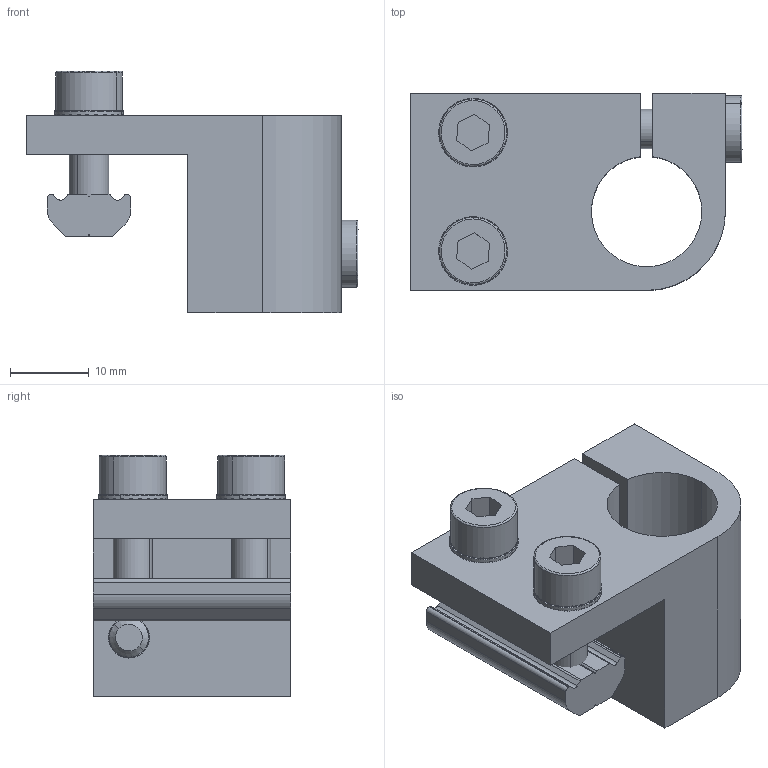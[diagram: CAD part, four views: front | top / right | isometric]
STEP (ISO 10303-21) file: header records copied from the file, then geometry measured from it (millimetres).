
FILE_DESCRIPTION (( 'STEP AP214' ), '1' );
FILE_NAME ('SMBE4-1412T.STEP', '2022-12-26T05:45:19', ( '' ), ( '' ), 'SwSTEP 2.0', 'SolidWorks 2018', '' );
FILE_SCHEMA (( 'AUTOMOTIVE_DESIGN' ));
Length unit declared in the file: millimetre
Products named in the file (1): SMBE4-1412T
Bounding box: 42.1 x 25 x 30.6 mm (x, y, z)
Volume: 12023.9 mm3; surface area: 8539.2 mm2
Topology: 8 solids, 8 shells, 719 faces, 2091 edges, 1384 vertices
Faces by surface type: plane 648, cylinder 59, cone 6, bspline 6
Entity records: 32361 total; most frequent: CARTESIAN_POINT 4792, ORIENTED_EDGE 4182, DIRECTION 4149, EDGE_CURVE 2091, AXIS2_PLACEMENT_3D 1388, VERTEX_POINT 1384, VECTOR 1373, LINE 1373
